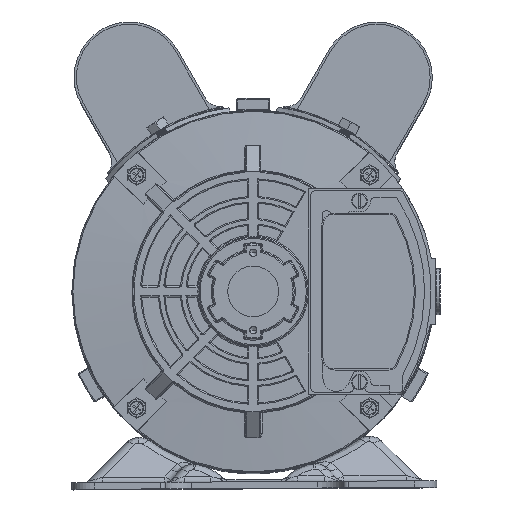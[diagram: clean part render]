
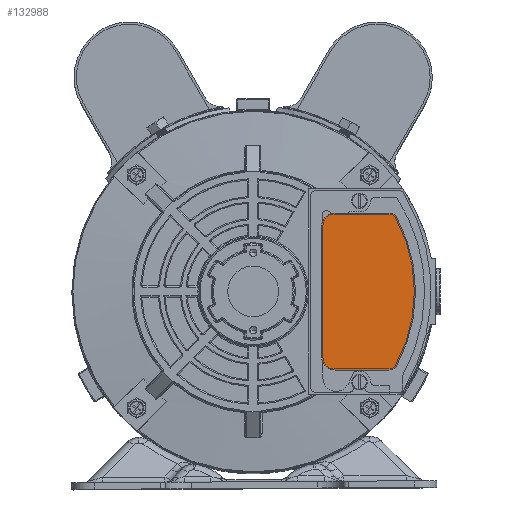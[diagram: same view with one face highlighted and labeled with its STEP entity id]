
A CAD part, top view. The second image highlights one B-rep face of the part: STEP entity #132988.
In plain terms, the highlighted planar face has unit normal (0, 0, 1).
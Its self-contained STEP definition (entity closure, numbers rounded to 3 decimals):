
#617 = AXIS2_PLACEMENT_3D ( 'NONE', #46550, #77900, #119390 ) ;
#2308 = CARTESIAN_POINT ( 'NONE',  ( -104.056, 45.819, 388.649 ) ) ;
#3437 = VERTEX_POINT ( 'NONE', #107939 ) ;
#4305 = AXIS2_PLACEMENT_3D ( 'NONE', #9188, #50822, #92355 ) ;
#4703 = CIRCLE ( 'NONE', #98352, 70. ) ;
#5314 = CARTESIAN_POINT ( 'NONE',  ( -104.056, -19.181, 388.649 ) ) ;
#5513 = VERTEX_POINT ( 'NONE', #5314 ) ;
#7547 = DIRECTION ( 'NONE',  ( 0., -1., 0. ) ) ;
#8555 = VERTEX_POINT ( 'NONE', #25163 ) ;
#9188 = CARTESIAN_POINT ( 'NONE',  ( -73.678, -21.181, 388.649 ) ) ;
#11086 = CARTESIAN_POINT ( 'NONE',  ( -71.346, 45.819, 388.649 ) ) ;
#16456 = CARTESIAN_POINT ( 'NONE',  ( -73.678, -25.181, 388.649 ) ) ;
#17353 = CIRCLE ( 'NONE', #93578, 6. ) ;
#24195 = VERTEX_POINT ( 'NONE', #59601 ) ;
#25163 = CARTESIAN_POINT ( 'NONE',  ( -73.678, 45.819, 388.649 ) ) ;
#29637 = CARTESIAN_POINT ( 'NONE',  ( -131.676, 10.319, 388.649 ) ) ;
#37796 = CARTESIAN_POINT ( 'NONE',  ( -131.676, 10.319, 388.649 ) ) ;
#38264 = CARTESIAN_POINT ( 'NONE',  ( -73.678, 41.819, 388.649 ) ) ;
#40699 = CARTESIAN_POINT ( 'NONE',  ( -104.056, -25.181, 388.649 ) ) ;
#43892 = AXIS2_PLACEMENT_3D ( 'NONE', #29637, #71284, #112752 ) ;
#43950 = DIRECTION ( 'NONE',  ( 0., -1., 0. ) ) ;
#46550 = CARTESIAN_POINT ( 'NONE',  ( -98.056, -19.181, 388.649 ) ) ;
#46746 = VERTEX_POINT ( 'NONE', #16456 ) ;
#49886 = EDGE_CURVE ( 'NONE', #121739, #8555, #124603, .T. ) ;
#50339 = VECTOR ( 'NONE', #52714, 1000. ) ;
#50582 = ORIENTED_EDGE ( 'NONE', *, *, #118821, .T. ) ;
#50822 = DIRECTION ( 'NONE',  ( 0., 0., 1. ) ) ;
#52714 = DIRECTION ( 'NONE',  ( -1., 0., 0. ) ) ;
#59099 = ORIENTED_EDGE ( 'NONE', *, *, #133000, .T. ) ;
#59236 = VECTOR ( 'NONE', #43950, 1000. ) ;
#59388 = CARTESIAN_POINT ( 'NONE',  ( -98.056, 39.819, 388.649 ) ) ;
#59421 = CIRCLE ( 'NONE', #617, 6. ) ;
#59601 = CARTESIAN_POINT ( 'NONE',  ( -98.056, -25.181, 388.649 ) ) ;
#61270 = CIRCLE ( 'NONE', #4305, 4. ) ;
#61771 = ORIENTED_EDGE ( 'NONE', *, *, #94952, .T. ) ;
#61938 = ORIENTED_EDGE ( 'NONE', *, *, #87879, .T. ) ;
#64796 = CARTESIAN_POINT ( 'NONE',  ( -70.163, -23.09, 388.649 ) ) ;
#65917 = AXIS2_PLACEMENT_3D ( 'NONE', #38264, #79851, #121342 ) ;
#69284 = EDGE_CURVE ( 'NONE', #97332, #121739, #4703, .T. ) ;
#71284 = DIRECTION ( 'NONE',  ( 0., 0., 1. ) ) ;
#77900 = DIRECTION ( 'NONE',  ( 0., 0., 1. ) ) ;
#79386 = DIRECTION ( 'NONE',  ( 0., 0., 1. ) ) ;
#79851 = DIRECTION ( 'NONE',  ( 0., 0., 1. ) ) ;
#81063 = EDGE_LOOP ( 'NONE', ( #127480, #59099, #109062, #133956, #50582, #61771, #61938, #116187 ) ) ;
#81472 = FACE_OUTER_BOUND ( 'NONE', #81063, .T. ) ;
#82261 = DIRECTION ( 'NONE',  ( 1., 0., 0. ) ) ;
#87879 = EDGE_CURVE ( 'NONE', #118192, #5513, #95705, .T. ) ;
#92355 = DIRECTION ( 'NONE',  ( 0., -1., 0. ) ) ;
#93578 = AXIS2_PLACEMENT_3D ( 'NONE', #59388, #100945, #7547 ) ;
#94952 = EDGE_CURVE ( 'NONE', #3437, #118192, #17353, .T. ) ;
#95705 = LINE ( 'NONE', #2308, #59236 ) ;
#97332 = VERTEX_POINT ( 'NONE', #64796 ) ;
#98352 = AXIS2_PLACEMENT_3D ( 'NONE', #37796, #79386, #120876 ) ;
#100945 = DIRECTION ( 'NONE',  ( 0., 0., 1. ) ) ;
#101673 = EDGE_CURVE ( 'NONE', #5513, #24195, #59421, .T. ) ;
#102537 = EDGE_CURVE ( 'NONE', #24195, #46746, #133983, .T. ) ;
#104466 = LINE ( 'NONE', #11086, #50339 ) ;
#107939 = CARTESIAN_POINT ( 'NONE',  ( -98.056, 45.819, 388.649 ) ) ;
#109062 = ORIENTED_EDGE ( 'NONE', *, *, #69284, .T. ) ;
#111694 = CARTESIAN_POINT ( 'NONE',  ( -70.163, 43.728, 388.649 ) ) ;
#112752 = DIRECTION ( 'NONE',  ( 1., 0., 0. ) ) ;
#116187 = ORIENTED_EDGE ( 'NONE', *, *, #101673, .T. ) ;
#118192 = VERTEX_POINT ( 'NONE', #124690 ) ;
#118821 = EDGE_CURVE ( 'NONE', #8555, #3437, #104466, .T. ) ;
#119390 = DIRECTION ( 'NONE',  ( 0., -1., 0. ) ) ;
#120876 = DIRECTION ( 'NONE',  ( 0., -1., 0. ) ) ;
#121342 = DIRECTION ( 'NONE',  ( 0., -1., 0. ) ) ;
#121739 = VERTEX_POINT ( 'NONE', #111694 ) ;
#122978 = PLANE ( 'NONE',  #43892 ) ;
#124603 = CIRCLE ( 'NONE', #65917, 4. ) ;
#124690 = CARTESIAN_POINT ( 'NONE',  ( -104.056, 39.819, 388.649 ) ) ;
#126958 = VECTOR ( 'NONE', #82261, 1000. ) ;
#127480 = ORIENTED_EDGE ( 'NONE', *, *, #102537, .T. ) ;
#132988 = ADVANCED_FACE ( 'NONE', ( #81472 ), #122978, .T. ) ;
#133000 = EDGE_CURVE ( 'NONE', #46746, #97332, #61270, .T. ) ;
#133956 = ORIENTED_EDGE ( 'NONE', *, *, #49886, .T. ) ;
#133983 = LINE ( 'NONE', #40699, #126958 ) ;
